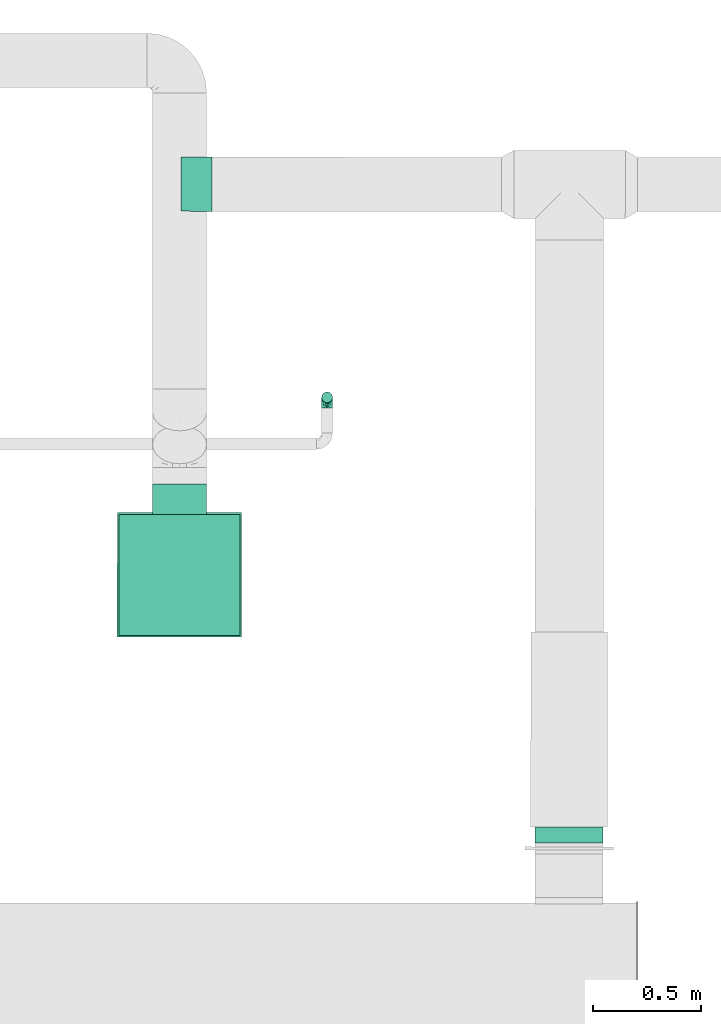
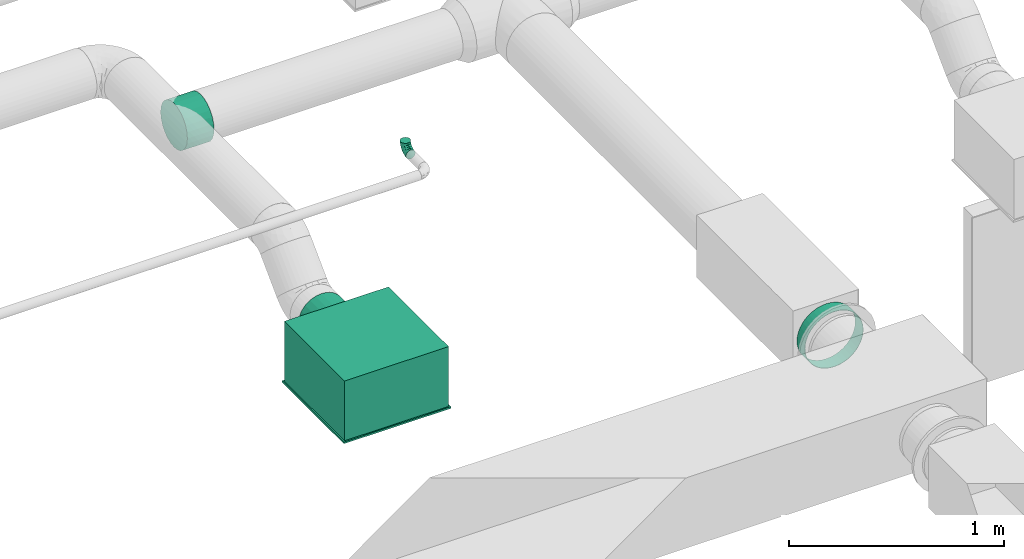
# One storey, part 42 of 63: 2 flow fittings, 1 flow segment, 1 flow terminal.
"""IFC2X3 building model written with IfcOpenShell, lengths in millimetres."""

import ifcopenshell
import ifcopenshell.guid

model = None  # the IFC model being written
_history = None  # IfcOwnerHistory: only IFC2X3 demands one
_inside = {}  # id of a spatial element -> (the spatial element, [elements in it])
_under = {}  # id of a project, library or spatial element -> (it, [spatial elements below it])
_declared = {}  # id of a project -> (the project, [libraries it declares])
_typed = {}  # id of a type object -> (the type object, [elements of that type])
_made_of = {}  # id of a material, layer set ... -> (it, [elements and type objects made of it])


def new_model(schema):
    """Start an empty IFC model of exactly this schema.

    Asked for "IFC4X3", IfcOpenShell would pick the latest addendum, in which some entities
    have other attributes; the version numbers below select the first issue.
    IFC2X3 requires an IfcOwnerHistory on every rooted entity: one is made here for all.
    """
    global model, _history
    if schema == "IFC4X3":
        model = ifcopenshell.file(schema_version=(4, 3, 0, 0))
    else:
        model = ifcopenshell.file(schema=schema)
    _inside.clear()
    _under.clear()
    _declared.clear()
    _typed.clear()
    _made_of.clear()
    _history = None
    if model.schema == "IFC2X3":
        org = make("IfcOrganization", Name="unknown")
        user = make(
            "IfcPersonAndOrganization",
            ThePerson=make("IfcPerson", FamilyName="unknown"),
            TheOrganization=org,
        )
        app = make(
            "IfcApplication",
            ApplicationDeveloper=org,
            Version="unknown",
            ApplicationFullName="unknown",
            ApplicationIdentifier="unknown",
        )
        _history = make(
            "IfcOwnerHistory",
            OwningUser=user,
            OwningApplication=app,
            ChangeAction="ADDED",
            CreationDate=0,
        )
    return model


def make(cls, **values):
    """One entity of the class cls with the attributes given. An attribute that is None is left unset."""
    return model.create_entity(
        cls, **{name: value for name, value in values.items() if value is not None}
    )


def entity(cls, *values):
    """Any entity or typed value of the class cls, its attributes in the order of the schema. None: left unset."""
    e = model.create_entity(cls)
    for i, value in enumerate(values):
        if value is not None:
            e[i] = value
    return e


def rooted(cls, **values):
    """An entity with a GlobalId (a new one), such as an element, a storey or a relation."""
    return make(cls, GlobalId=ifcopenshell.guid.new(), OwnerHistory=_history, **values)


def si_unit(unit_type, name, prefix=None):
    """IfcSIUnit, for example si_unit("LENGTHUNIT", "METRE", prefix="MILLI")."""
    return make("IfcSIUnit", UnitType=unit_type, Prefix=prefix, Name=name)


def converted_unit(unit_type, name, factor, base, dimensions=None, offset=None):
    """IfcConversionBasedUnit, such as the inch: factor (a typed value) times the base unit."""
    return make(
        "IfcConversionBasedUnit"
        if offset is None
        else "IfcConversionBasedUnitWithOffset",
        ConversionOffset=offset,
        Dimensions=None
        if dimensions is None
        else entity("IfcDimensionalExponents", *dimensions),
        UnitType=unit_type,
        Name=name,
        ConversionFactor=make(
            "IfcMeasureWithUnit", ValueComponent=factor, UnitComponent=base
        ),
    )


def derived_unit(unit_type, elements):
    """IfcDerivedUnit: a product of units, each with its exponent."""
    return make(
        "IfcDerivedUnit",
        Elements=[
            make("IfcDerivedUnitElement", Unit=unit, Exponent=power)
            for unit, power in elements
        ],
        UnitType=unit_type,
    )


def assignment(units):
    """IfcUnitAssignment: the units of a project."""
    return None if units is None else make("IfcUnitAssignment", Units=units)


def point(xyz):
    """IfcCartesianPoint."""
    return None if xyz is None else make("IfcCartesianPoint", Coordinates=xyz)


def direction(xyz):
    """IfcDirection."""
    return None if xyz is None else make("IfcDirection", DirectionRatios=xyz)


def frame(location, z_axis=None, x_axis=None):
    """IfcAxis2Placement3D, a coordinate frame: its origin and axes. An axis left out is left unset."""
    return make(
        "IfcAxis2Placement3D",
        Location=point(location),
        Axis=direction(z_axis),
        RefDirection=direction(x_axis),
    )


def frame_2d(location, x_axis=None):
    """IfcAxis2Placement2D, a coordinate frame in the plane: its origin and x axis."""
    return make(
        "IfcAxis2Placement2D", Location=point(location), RefDirection=direction(x_axis)
    )


def origin_with_axes():
    """The frame at (0, 0, 0) with the z axis (0, 0, 1) and the x axis (1, 0, 0) written out."""
    return frame((0.0, 0.0, 0.0), z_axis=(0.0, 0.0, 1.0), x_axis=(1.0, 0.0, 0.0))


def origin_2d_with_axis():
    """The frame at (0, 0) in the plane with the x axis (1, 0) written out."""
    return frame_2d((0.0, 0.0), x_axis=(1.0, 0.0))


def place(relative_to, where):
    """IfcLocalPlacement: puts the frame where relative to a parent placement (None: the world)."""
    return make(
        "IfcLocalPlacement", PlacementRelTo=relative_to, RelativePlacement=where
    )


def context(
    kind, dimensions, precision=None, world=None, true_north=None, identifier=None
):
    """IfcGeometricRepresentationContext, for example the 3D "Model" context."""
    return make(
        "IfcGeometricRepresentationContext",
        ContextIdentifier=identifier,
        ContextType=kind,
        CoordinateSpaceDimension=dimensions,
        Precision=precision,
        WorldCoordinateSystem=world,
        TrueNorth=true_north,
    )


def subcontext(parent, identifier, kind, view, scale=None):
    """IfcGeometricRepresentationSubContext, for example "Body" below "Model"."""
    return make(
        "IfcGeometricRepresentationSubContext",
        ContextIdentifier=identifier,
        ContextType=kind,
        ParentContext=parent,
        TargetScale=scale,
        TargetView=view,
    )


def project(units=None, contexts=None):
    """IfcProject with its units and contexts."""
    return rooted(
        "IfcProject",
        Name="project",
        RepresentationContexts=contexts,
        UnitsInContext=assignment(units),
    )


def spatial(cls, under=None, at=None, **own):
    """A site, building, storey or space (cls), placed at a placement, below another one or the project."""
    s = rooted(cls, ObjectPlacement=at, **own)
    if under is not None:
        _under.setdefault(under.id(), (under, []))[1].append(s)
    return s


def profile(cls, at=None, kind="AREA", **sizes):
    """A parametric profile (cls). Its sizes go by their IFC names, for example OverallWidth=200.0."""
    return make(cls, ProfileType=kind, Position=at, **sizes)


def hollow_circle(**sizes):
    """IfcCircleHollowProfileDef."""
    return profile("IfcCircleHollowProfileDef", **sizes)


def extrude(swept, where, along, depth):
    """IfcExtrudedAreaSolid: the profile swept, set in the frame where, extruded along a direction by depth."""
    return make(
        "IfcExtrudedAreaSolid",
        SweptArea=swept,
        Position=where,
        ExtrudedDirection=direction(along),
        Depth=depth,
    )


def faces_of(points, faces, orient=None, outer=None):
    """IfcFace entities. A face is a list of loops; a loop is a list of indices into points, from 0.

    orient and outer hold one flag for each loop. By default every Orientation is true, the
    first loop of a face is its IfcFaceOuterBound and the others are IfcFaceBound.
    """
    made = []
    for i, loops in enumerate(faces):
        bounds = []
        for j, loop in enumerate(loops):
            is_outer = j == 0 if outer is None else outer[i][j]
            bounds.append(
                make(
                    "IfcFaceOuterBound" if is_outer else "IfcFaceBound",
                    Bound=make("IfcPolyLoop", Polygon=[points[k] for k in loop]),
                    Orientation=True if orient is None else orient[i][j],
                )
            )
        made.append(make("IfcFace", Bounds=bounds))
    return made


def open_shell(faces, orient=None, outer=None):
    """The faces of one IfcOpenShell. surface_model builds it on its shared points."""
    return ("IfcOpenShell", faces, orient, outer)


def surface_model(cls, points, shells):
    """IfcFaceBasedSurfaceModel or IfcShellBasedSurfaceModel (cls): surfaces that need not close."""
    shared = [point(p) for p in points]
    made = [make(c, CfsFaces=faces_of(shared, fs, o, b)) for c, fs, o, b in shells]
    if cls == "IfcFaceBasedSurfaceModel":
        return make(cls, FbsmFaces=made)
    return make(cls, SbsmBoundary=made)


def shape(context_of_items, identifier, shape_type, items):
    """IfcShapeRepresentation: the items that make up one representation, for example the "Body"."""
    return make(
        "IfcShapeRepresentation",
        ContextOfItems=context_of_items,
        RepresentationIdentifier=identifier,
        RepresentationType=shape_type,
        Items=items,
    )


def source(mapping_origin, context_of_items, identifier, shape_type, items):
    """IfcRepresentationMap: a shape defined once, which mapped items show again and again."""
    return make(
        "IfcRepresentationMap",
        MappingOrigin=mapping_origin,
        MappedRepresentation=shape(context_of_items, identifier, shape_type, items),
    )


def transform(
    local_origin,
    x_axis=None,
    y_axis=None,
    z_axis=None,
    scale=None,
    scale2=None,
    scale3=None,
    uniform=True,
):
    """IfcCartesianTransformationOperator3D, or its non-uniform kind. x_axis, y_axis, z_axis: its Axis1, 2, 3."""
    if uniform:
        return make(
            "IfcCartesianTransformationOperator3D",
            Axis1=direction(x_axis),
            Axis2=direction(y_axis),
            LocalOrigin=point(local_origin),
            Scale=scale,
            Axis3=direction(z_axis),
        )
    return make(
        "IfcCartesianTransformationOperator3DnonUniform",
        Axis1=direction(x_axis),
        Axis2=direction(y_axis),
        LocalOrigin=point(local_origin),
        Scale=scale,
        Axis3=direction(z_axis),
        Scale2=scale2,
        Scale3=scale3,
    )


def mapped(mapping_source, mapping_target):
    """IfcMappedItem: shows the shape of a source again, moved by a transform."""
    return make(
        "IfcMappedItem", MappingSource=mapping_source, MappingTarget=mapping_target
    )


def made_of(thing, what):
    """Note that an element or type object is made of a material, layer set ...; save() writes the relation."""
    if what is not None:
        _made_of.setdefault(what.id(), (what, []))[1].append(thing)
    return thing


def type_object(cls, material=None, **own):
    """A type object (cls), such as IfcWallType, which elements share."""
    return made_of(rooted(cls, **own), material)


def element(
    cls,
    number,
    at=None,
    inside=None,
    cuts=None,
    type_object=None,
    material=None,
    context=None,
    identifier="Body",
    shape_type=None,
    held_by="IfcProductDefinitionShape",
    body=None,
    shapes=None,
    **own,
):
    """One element of the class cls, such as IfcWall. Its Tag is "e" and its number.

    at: its placement. inside: the storey or other place that contains it. cuts: it is an
    opening in that element (IfcRelVoidsElement). A single representation is given by context,
    identifier, shape_type and body (its items); several are given by shapes. held_by: the class
    of the entity that holds the representations. save() writes the other relations.
    """
    e = rooted(cls, Tag="e%d" % number, ObjectPlacement=at, **own)
    if body is not None:
        shapes = [shape(context, identifier, shape_type, body)]
    if shapes is not None:
        e.Representation = make(held_by, Representations=shapes)
    if inside is not None:
        _inside.setdefault(inside.id(), (inside, []))[1].append(e)
    if cuts is not None:
        rooted(
            "IfcRelVoidsElement", RelatingBuildingElement=cuts, RelatedOpeningElement=e
        )
    if type_object is not None:
        _typed.setdefault(type_object.id(), (type_object, []))[1].append(e)
    return made_of(e, material)


def aggregate(whole, parts):
    """IfcRelAggregates: a whole, such as a stair, and the parts it consists of."""
    return rooted("IfcRelAggregates", RelatingObject=whole, RelatedObjects=parts)


def save(model, path):
    """Write the relations noted so far, then the file.

    IfcRelAggregates (storeys below a building ...), IfcRelContainedInSpatialStructure (elements
    in a storey), IfcRelDefinesByType, IfcRelAssociatesMaterial and IfcRelDeclares: one each for
    every whole, place, type object, material and project.
    """
    for whole, parts in _under.values():
        aggregate(whole, parts)
    for where, things in _inside.values():
        rooted(
            "IfcRelContainedInSpatialStructure",
            RelatedElements=things,
            RelatingStructure=where,
        )
    for kind, things in _typed.values():
        rooted("IfcRelDefinesByType", RelatedObjects=things, RelatingType=kind)
    for what, things in _made_of.values():
        rooted("IfcRelAssociatesMaterial", RelatedObjects=things, RelatingMaterial=what)
    for by, libraries in _declared.values():
        rooted("IfcRelDeclares", RelatingContext=by, RelatedDefinitions=libraries)
    model.write(path)


model = new_model("IFC2X3")

# Units and contexts
model_context = context("Model", 3, precision=0.01, world=frame((0.0, 4.29681676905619e-09, 0.0)), true_north=direction((4.01073788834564e-13, 1.0)))
plan_context = context("Plan", 3, precision=0.01, world=frame((0.0, 4.29681676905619e-09, 0.0)), true_north=direction((4.01073788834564e-13, 1.0)))
body_context = subcontext(model_context, "Body", "Model", "MODEL_VIEW")
ifc_project = project(units=[converted_unit("PLANEANGLEUNIT", "DEGREE", entity("IfcPositiveLengthMeasure", 0.0174532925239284), si_unit("PLANEANGLEUNIT", "RADIAN"), dimensions=[0, 0, 0, 0, 0, 0, 0]), si_unit("AREAUNIT", "SQUARE_METRE"), si_unit("LENGTHUNIT", "METRE", prefix="MILLI"), si_unit("MASSUNIT", "GRAM", prefix="KILO"), si_unit("POWERUNIT", "WATT"), si_unit("PRESSUREUNIT", "PASCAL"), si_unit("FORCEUNIT", "NEWTON", prefix="KILO"), si_unit("ELECTRICVOLTAGEUNIT", "VOLT"), si_unit("ELECTRICCURRENTUNIT", "AMPERE"), si_unit("THERMODYNAMICTEMPERATUREUNIT", "DEGREE_CELSIUS"), si_unit("TIMEUNIT", "SECOND"), si_unit("VOLUMEUNIT", "CUBIC_METRE"), derived_unit("LINEARVELOCITYUNIT", [(si_unit("LENGTHUNIT", "METRE"), 1), (si_unit("TIMEUNIT", "SECOND"), -1)]), derived_unit("VOLUMETRICFLOWRATEUNIT", [(si_unit("VOLUMEUNIT", "CUBIC_METRE"), 1), (si_unit("TIMEUNIT", "SECOND"), -1)]), derived_unit("THERMALTRANSMITTANCEUNIT", [(si_unit("POWERUNIT", "WATT"), 1), (si_unit("THERMODYNAMICTEMPERATUREUNIT", "KELVIN"), -1), (si_unit("AREAUNIT", "SQUARE_METRE"), -1)]), derived_unit("SOUNDPRESSUREUNIT", [(si_unit("PRESSUREUNIT", "PASCAL"), 1)])], contexts=[model_context, plan_context])

# Site, building, storey
site_placement = place(None, frame((0.0, -4.29681676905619e-09, 0.0), z_axis=(0.0, 0.0, 1.0), x_axis=(1.0, 0.0, 0.0)))
site = spatial("IfcSite", under=ifc_project, at=site_placement, CompositionType="ELEMENT")
building_placement = place(site_placement, frame((0.0, 4.29681676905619e-09, 0.0), z_axis=(0.0, 0.0, 1.0), x_axis=(1.0, 0.0, 0.0)))
building = spatial("IfcBuilding", under=site, at=building_placement, Name="mc-building", CompositionType="ELEMENT")
storey_placement = place(building_placement, frame((0.0, 0.0, 210900.0), z_axis=(0.0, 0.0, 1.0), x_axis=(1.0, 0.0, 0.0)))
storey = spatial("IfcBuildingStorey", under=building, at=storey_placement, Name="Nivå F", CompositionType="ELEMENT", Elevation=210900.0)

# Flow fittings
duct_fitting_type_1 = type_object("IfcDuctFittingType", Name="magicirc_tapoutlet_001", PredefinedType="CONNECTOR")
shared_shape_1 = source(origin_with_axes(), body_context, "Body", "SurfaceModel", [
    surface_model("IfcShellBasedSurfaceModel", [(-118.904, 88.38835, -88.38835), (-118.904, 120.74073, 32.35238), (-118.904, 108.25318, -62.5), (-118.904, -88.38835, -88.38835), (-118.904, -125.0, 0.0), (-118.904, -62.5, -108.25318), (-118.904, -120.74073, -32.35238), (-118.904, -108.25318, -62.5), (0.0, 125.0, 0.0), (0.0, 120.74073, -32.35238), (-118.904, 125.0, 0.0), (0.0, -120.74073, -32.35238), (0.0, -125.0, 0.0), (-118.904, -32.35238, -120.74073), (-118.904, 0.0, -125.0), (-118.904, 62.5, -108.25318), (-118.904, 32.35238, -120.74073), (-118.904, 120.74073, -32.35238), (-118.904, -120.74073, 32.35238), (-118.904, -108.25318, 62.5), (-118.904, -62.5, 108.25318), (-118.904, -32.35238, 120.74073), (-118.904, -88.38835, 88.38835), (-118.904, 62.5, 108.25318), (-118.904, 108.25318, 62.5), (-118.904, 88.38835, 88.38835), (-118.904, 32.35238, 120.74073), (-118.904, 0.0, 125.0), (0.0, -32.35238, 120.74073), (0.0, 0.0, 125.0), (0.0, -62.5, 108.25318), (0.0, -88.38835, 88.38835), (0.0, -120.74073, 32.35238), (0.0, -108.25318, 62.5), (0.0, -108.25318, -62.5), (0.0, -88.38835, -88.38835), (0.0, -32.35238, -120.74073), (0.0, -62.5, -108.25318), (0.0, 0.0, -125.0), (0.0, 32.35238, -120.74073), (0.0, 62.5, -108.25318), (0.0, 88.38835, -88.38835), (0.0, 108.25318, -62.5), (0.0, 120.74073, 32.35238), (0.0, 108.25318, 62.5), (0.0, 88.38835, 88.38835), (0.0, 32.35238, 120.74073), (0.0, 62.5, 108.25318), (25.0, -88.38835, -88.38835), (25.0, -120.74073, 32.35238), (25.0, -108.25318, -62.5), (25.0, 32.35238, -120.74073), (25.0, 0.0, -125.0), (25.0, 62.5, -108.25318), (25.0, -32.35238, -120.74073), (25.0, -62.5, -108.25318), (25.0, -125.0, 0.0), (25.0, -120.74073, -32.35238), (25.0, 88.38835, -88.38835), (25.0, 108.25318, -62.5), (25.0, 125.0, 0.0), (25.0, 120.74073, 32.35238), (25.0, 120.74073, -32.35238), (25.0, -108.25318, 62.5), (25.0, -62.5, 108.25318), (25.0, -32.35238, 120.74073), (25.0, -88.38835, 88.38835), (25.0, 0.0, 125.0), (25.0, 108.25318, 62.5), (25.0, 88.38835, 88.38835), (25.0, 32.35238, 120.74073), (25.0, 62.5, 108.25318)], [open_shell([[[0, 1, 2]], [[3, 4, 5]], [[6, 4, 7]], [[3, 7, 4]], [[8, 9, 10]], [[4, 11, 12]], [[13, 4, 14]], [[5, 4, 13]], [[0, 14, 1]], [[14, 15, 16]], [[14, 0, 15]], [[2, 1, 17]], [[2, 0, 1]], [[1, 10, 17]], [[4, 7, 6]], [[18, 19, 14]], [[14, 19, 20]], [[21, 14, 20]], [[20, 19, 22]], [[14, 21, 23]], [[14, 24, 1]], [[25, 24, 14]], [[25, 14, 23]], [[21, 26, 23]], [[21, 27, 26]], [[4, 18, 14]], [[28, 29, 21]], [[30, 28, 20]], [[21, 29, 27]], [[20, 28, 21]], [[20, 22, 30]], [[22, 31, 30]], [[32, 33, 18]], [[12, 32, 4]], [[22, 19, 31]], [[19, 33, 31]], [[18, 33, 19]], [[18, 4, 32]], [[7, 34, 11]], [[6, 11, 4]], [[34, 7, 3]], [[6, 7, 11]], [[3, 35, 34]], [[36, 37, 13]], [[38, 36, 14]], [[3, 5, 35]], [[5, 37, 35]], [[13, 37, 5]], [[13, 14, 36]], [[39, 38, 16]], [[40, 39, 15]], [[16, 38, 14]], [[15, 39, 16]], [[15, 0, 40]], [[0, 41, 40]], [[9, 42, 17]], [[0, 2, 41]], [[2, 42, 41]], [[17, 42, 2]], [[17, 10, 9]], [[43, 8, 1]], [[44, 43, 24]], [[1, 8, 10]], [[24, 43, 1]], [[24, 25, 44]], [[25, 45, 44]], [[46, 47, 26]], [[29, 46, 27]], [[25, 23, 45]], [[23, 47, 45]], [[26, 47, 23]], [[26, 27, 46]], [[7, 4, 3]], [[15, 16, 14]], [[19, 14, 18]], [[19, 22, 14]], [[14, 22, 20]], [[14, 23, 25]], [[27, 26, 21]], [[14, 4, 18]], [[48, 49, 50]], [[51, 52, 38]], [[53, 51, 39]], [[53, 39, 40]], [[38, 52, 54]], [[36, 54, 55]], [[37, 36, 55]], [[56, 57, 49]], [[58, 59, 60]], [[58, 60, 53]], [[52, 51, 54]], [[54, 49, 55]], [[55, 49, 48]], [[54, 60, 61]], [[54, 51, 53]], [[62, 60, 59]], [[53, 60, 54]], [[57, 50, 49]], [[63, 49, 54]], [[64, 63, 54]], [[64, 54, 65]], [[66, 63, 64]], [[67, 65, 54]], [[61, 68, 54]], [[68, 69, 54]], [[70, 67, 71]], [[69, 71, 67]], [[54, 69, 67]], [[65, 67, 29]], [[64, 65, 28]], [[28, 65, 29]], [[31, 66, 30]], [[64, 28, 30]], [[64, 30, 66]], [[49, 63, 33]], [[56, 49, 32]], [[33, 63, 31]], [[49, 33, 32]], [[56, 32, 12]], [[66, 31, 63]], [[57, 56, 12]], [[50, 57, 11]], [[11, 57, 12]], [[35, 48, 34]], [[50, 11, 34]], [[50, 34, 48]], [[37, 55, 35]], [[54, 36, 38]], [[48, 35, 55]], [[39, 51, 38]], [[41, 58, 40]], [[53, 40, 58]], [[62, 59, 42]], [[60, 62, 9]], [[42, 59, 41]], [[62, 42, 9]], [[60, 9, 8]], [[58, 41, 59]], [[61, 60, 8]], [[68, 61, 43]], [[43, 61, 8]], [[45, 69, 44]], [[68, 43, 44]], [[68, 44, 69]], [[70, 71, 47]], [[67, 70, 46]], [[47, 71, 45]], [[70, 47, 46]], [[67, 46, 29]], [[69, 45, 71]], [[66, 63, 54]], [[54, 65, 64]], [[64, 66, 54]], [[54, 69, 71]], [[67, 54, 71]]])]),
])
flow_fitting_1_placement = place(storey_placement, frame((530629.10832, 459790.14001, 4200.0), z_axis=(0.0, 0.0, -1.0), x_axis=(0.999999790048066, -0.000647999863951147, 0.0)))
element("IfcFlowFitting", 1, at=flow_fitting_1_placement, inside=storey, type_object=duct_fitting_type_1, Name="magicirc_tapoutlet_001", context=body_context, shape_type="MappedRepresentation", body=[
    mapped(shared_shape_1, transform((0.0, 0.0, 0.0), scale=1.0)),
])
duct_fitting_type_2 = type_object("IfcDuctFittingType", Name="magicirc_elbow_full_radius_001", PredefinedType="BEND")
shared_shape_2 = source(origin_with_axes(), body_context, "Body", "SurfaceModel", [
    surface_model("IfcShellBasedSurfaceModel", [(-50.0, -6.47048, 24.14815), (-50.0, 0.0, 25.0), (-50.0, 6.47048, 24.14815), (-50.0, 25.0, 0.0), (-50.0, 24.14815, -6.47048), (-50.0, 24.14815, 6.47048), (-50.0, 6.47048, -24.14815), (-50.0, 0.0, -25.0), (-50.0, 12.5, -21.65064), (-50.0, 21.65064, -12.5), (-50.0, 17.67767, -17.67767), (-50.0, -17.67767, -17.67767), (-50.0, -12.5, -21.65064), (-50.0, -6.47048, -24.14815), (-50.0, -21.65064, -12.5), (-50.0, -24.14815, -6.47048), (-50.0, -24.14815, 6.47048), (-50.0, -25.0, 0.0), (-50.0, 21.65064, 12.5), (-50.0, 12.5, 21.65064), (-50.0, 17.67767, 17.67767), (-50.0, -12.5, 21.65064), (-50.0, -21.65064, 12.5), (-50.0, -17.67767, 17.67767), (-24.14815, 50.0, -6.47048), (0.0, 50.0, -25.0), (-6.47048, 50.0, -24.14815), (-12.5, 50.0, -21.65064), (-21.65064, 50.0, -12.5), (-17.67767, 50.0, -17.67767), (17.67767, 50.0, -17.67767), (6.47048, 50.0, -24.14815), (12.5, 50.0, -21.65064), (24.14815, 50.0, -6.47048), (21.65064, 50.0, -12.5), (25.0, 50.0, 0.0), (-24.14815, 50.0, 6.47048), (24.14815, 50.0, 6.47048), (-6.47048, 50.0, 24.14815), (-21.65064, 50.0, 12.5), (-17.67767, 50.0, 17.67767), (-12.5, 50.0, 21.65064), (12.5, 50.0, 21.65064), (17.67767, 50.0, 17.67767), (21.65064, 50.0, 12.5), (6.47048, 50.0, 24.14815), (0.0, 50.0, 25.0), (-25.0, 50.0, 0.0), (-36.67735, -19.42227, 14.03433), (-32.82968, -14.42335, 18.62892), (-35.64937, -22.14548, 0.0), (-22.09962, -15.92094, 12.6179), (-33.22625, -21.82028, 7.797), (21.82028, 33.22625, 7.797), (17.64067, 19.58414, 6.40882), (19.29096, 21.29874, 0.0), (-24.43766, 39.90136, 10.86587), (-20.88421, 38.92216, 16.42417), (-36.74567, -9.45359, 22.49231), (-38.192, -3.31182, 24.57244), (-35.00811, 3.83216, 24.95739), (-9.13287, -11.16199, 0.0), (-19.58414, -17.64067, 6.40882), (-21.29874, -19.29096, 0.0), (-19.31524, -6.06759, 20.7695), (-24.88984, -0.22435, 24.23133), (-2.15147, -4.22615, 11.26442), (-0.41902, 0.51586, 14.93357), (-8.49829, -5.98681, 15.40266), (-39.08085, 20.84056, 16.4067), (-8.68866, 24.58498, 24.95514), (-18.51786, 18.51786, 24.39255), (-14.88627, 10.92479, 24.87122), (-43.25329, 15.13957, 20.3706), (-9.33205, 43.12334, 23.41697), (-3.42635, 37.39647, 24.9386), (-39.91378, 24.43361, 10.86421), (-39.52416, 26.62869, 5.49664), (-31.04081, 31.04081, 9.34521), (-38.53768, 9.80489, 23.61608), (-6.5257, 16.74435, 24.54744), (-12.42199, 4.5863, 23.34496), (-2.55398, 13.50681, 22.9747), (-4.46571, 4.46571, 20.43962), (14.42335, 32.82968, 18.62892), (15.92094, 22.09962, 12.6179), (19.42227, 36.67735, 14.03433), (-26.57791, 16.96315, 23.12353), (-27.47187, 10.70867, 24.55261), (3.31182, 38.192, 24.57244), (9.45359, 36.74567, 22.49231), (6.06759, 19.31524, 20.7695), (22.14548, 35.64937, 0.0), (-24.53158, 6.12607, 24.98933), (-23.14362, 26.40038, 20.54252), (-34.42614, 16.97043, 21.05258), (-26.31567, 40.33071, 5.36329), (-31.33209, 32.79034, 4.39983), (11.41104, 20.24921, 17.09898), (-28.34936, 37.5, 0.0), (-10.81204, 33.87561, 23.80901), (-14.26605, 25.87925, 24.03265), (-18.12489, 32.31264, 21.01179), (-19.91717, 24.20374, 22.74716), (-15.27322, 41.92094, 20.47431), (-20.24921, -11.41104, 17.09898), (-25.92754, 33.13968, 14.14974), (-26.35258, 27.91972, 17.70863), (-32.10875, 26.86285, 13.94058), (0.22435, 24.88984, 24.23133), (5.69292, 8.68334, 15.83541), (-11.86567, -11.15996, 11.73483), (1.48439, -3.24717, 6.76648), (7.59176, 4.45273, 8.73079), (7.75387, 2.59512, 3.74652), (12.87658, 10.42821, 5.90505), (12.55206, 12.96891, 10.49254), (-37.5, 28.34936, 0.0), (-6.73798, -9.94178, 7.2586), (3.03301, -3.03301, 0.0), (11.16199, 9.13287, 0.0), (-20.24921, -11.41104, -17.09898), (-32.82968, -14.42335, -18.62892), (-19.31524, -6.06759, -20.7695), (-22.09962, -15.92095, -12.6179), (-38.92216, 20.88421, -16.42417), (-41.92094, 15.27322, -20.47431), (-40.33071, 26.31567, -5.36329), (-33.22625, -21.82028, -7.797), (-31.04081, 31.0408, -9.34521), (-39.90136, 24.43766, -10.86587), (-19.58414, -17.64067, -6.40882), (-24.20374, 19.91717, -22.74716), (-25.87925, 14.26604, -24.03266), (-32.31264, 18.12489, -21.01179), (-15.13957, 43.25329, -20.3706), (-20.84057, 39.08085, -16.4067), (9.45359, 36.74567, -22.49231), (6.06759, 19.31524, -20.7695), (0.22435, 24.88984, -24.23133), (-43.12334, 9.33205, -23.41697), (-36.67735, -19.42227, -14.03433), (-36.74567, -9.45359, -22.49231), (-16.96315, 26.5779, -23.12354), (-9.80489, 38.53768, -23.61608), (-10.70867, 27.47187, -24.55261), (-38.192, -3.31182, -24.57244), (-24.58498, 8.68866, -24.95514), (-18.51786, 18.51786, -24.39255), (-10.92479, 14.88627, -24.87122), (-37.39647, 3.42635, -24.9386), (-26.62869, 39.52416, -5.49664), (-24.43361, 39.91378, -10.86421), (-33.87561, 10.81204, -23.80901), (-32.79034, 31.33209, -4.39983), (-6.12607, 24.53158, -24.98933), (-26.40038, 23.14362, -20.54252), (-16.97043, 34.42613, -21.05258), (3.31182, 38.192, -24.57244), (-3.83216, 35.00811, -24.95739), (19.42227, 36.67735, -14.03433), (14.42335, 32.82968, -18.62892), (7.75387, 2.59513, -3.74652), (12.87658, 10.42822, -5.90505), (-16.74435, 6.5257, -24.54744), (-4.5863, 12.42199, -23.34496), (-13.50681, 2.55398, -22.9747), (1.48439, -3.24717, -6.76647), (-6.73799, -9.94178, -7.2586), (-2.15147, -4.22615, -11.26442), (15.92094, 22.09962, -12.6179), (21.82028, 33.22625, -7.797), (17.64067, 19.58414, -6.40882), (-33.13968, 25.92753, -14.14974), (11.41104, 20.24921, -17.09898), (12.55206, 12.96891, -10.49254), (5.69292, 8.68334, -15.83541), (-27.91972, 26.35258, -17.70863), (-26.86285, 32.10875, -13.94058), (-24.88984, -0.22435, -24.23133), (-4.46571, 4.46571, -20.43962), (-8.49829, -5.98681, -15.40266), (-11.86568, -11.15996, -11.73483), (-0.41902, 0.51586, -14.93357), (7.59175, 4.45273, -8.73079)], [open_shell([[[0, 1, 2]], [[3, 4, 5]], [[6, 7, 4]], [[8, 6, 4]], [[8, 4, 9]], [[10, 8, 9]], [[11, 4, 7]], [[12, 11, 13]], [[11, 7, 13]], [[14, 15, 11]], [[15, 16, 11]], [[17, 16, 15]], [[4, 11, 5]], [[5, 11, 16]], [[18, 5, 2]], [[2, 19, 20]], [[18, 2, 20]], [[2, 5, 21]], [[22, 23, 16]], [[21, 16, 23]], [[16, 21, 5]], [[21, 0, 2]], [[24, 25, 26]], [[24, 26, 27]], [[28, 24, 27]], [[28, 27, 29]], [[25, 24, 30]], [[31, 30, 32]], [[31, 25, 30]], [[30, 33, 34]], [[24, 33, 30]], [[24, 35, 33]], [[24, 36, 35]], [[37, 35, 36]], [[38, 36, 39]], [[40, 41, 38]], [[40, 38, 39]], [[42, 36, 38]], [[37, 43, 44]], [[43, 37, 42]], [[36, 42, 37]], [[38, 45, 42]], [[38, 46, 45]], [[36, 24, 47]], [[23, 48, 49]], [[16, 17, 50]], [[51, 48, 52]], [[53, 54, 55]], [[48, 23, 22]], [[16, 52, 22]], [[39, 56, 57]], [[49, 21, 23]], [[49, 58, 21]], [[1, 59, 60]], [[61, 62, 63]], [[58, 64, 65]], [[66, 67, 68]], [[18, 20, 69]], [[70, 71, 72]], [[19, 73, 20]], [[0, 59, 1]], [[38, 74, 75]], [[1, 60, 2]], [[18, 69, 76]], [[20, 73, 69]], [[3, 5, 77]], [[5, 18, 76]], [[77, 76, 78]], [[2, 79, 19]], [[80, 81, 82]], [[68, 83, 64]], [[84, 43, 42]], [[85, 86, 84]], [[87, 79, 88]], [[21, 58, 0]], [[46, 89, 45]], [[53, 37, 44]], [[46, 38, 75]], [[84, 90, 91]], [[44, 86, 53]], [[92, 37, 53]], [[86, 44, 43]], [[90, 42, 45]], [[53, 55, 92]], [[88, 93, 72]], [[54, 53, 85]], [[87, 94, 95]], [[78, 96, 97]], [[98, 84, 91]], [[99, 96, 47]], [[79, 2, 60]], [[96, 78, 56]], [[62, 52, 63]], [[57, 40, 39]], [[100, 70, 75]], [[101, 102, 103]], [[16, 50, 52]], [[104, 41, 40]], [[74, 38, 41]], [[57, 102, 104]], [[105, 64, 49]], [[90, 84, 42]], [[39, 36, 56]], [[56, 106, 57]], [[102, 57, 107]], [[95, 107, 69]], [[76, 108, 78]], [[100, 101, 70]], [[89, 75, 109]], [[64, 58, 49]], [[63, 52, 50]], [[59, 58, 65]], [[105, 49, 51]], [[64, 83, 81]], [[89, 90, 45]], [[35, 37, 92]], [[109, 82, 91]], [[109, 91, 90]], [[91, 83, 110]], [[111, 68, 105]], [[66, 68, 111]], [[62, 51, 52]], [[66, 112, 113]], [[114, 115, 113]], [[98, 85, 84]], [[52, 48, 22]], [[49, 48, 51]], [[84, 86, 43]], [[53, 86, 85]], [[88, 79, 60]], [[73, 79, 95]], [[96, 56, 36]], [[78, 108, 106]], [[87, 103, 94]], [[100, 74, 104]], [[108, 69, 107]], [[78, 97, 77]], [[88, 72, 71]], [[109, 75, 70]], [[81, 72, 65]], [[70, 72, 80]], [[75, 89, 46]], [[90, 89, 109]], [[58, 59, 0]], [[60, 59, 65]], [[67, 83, 68]], [[110, 113, 116]], [[88, 60, 93]], [[87, 88, 71]], [[103, 87, 71]], [[79, 87, 95]], [[101, 103, 71]], [[94, 103, 102]], [[47, 96, 36]], [[96, 99, 97]], [[99, 117, 97]], [[97, 117, 77]], [[3, 77, 117]], [[5, 76, 77]], [[60, 65, 93]], [[65, 72, 93]], [[70, 101, 71]], [[102, 101, 100]], [[69, 108, 76]], [[106, 108, 107]], [[57, 106, 107]], [[78, 106, 56]], [[57, 104, 40]], [[100, 104, 102]], [[102, 107, 94]], [[95, 94, 107]], [[64, 81, 65]], [[82, 81, 83]], [[91, 82, 83]], [[80, 82, 109]], [[70, 80, 109]], [[81, 80, 72]], [[79, 73, 19]], [[69, 73, 95]], [[104, 74, 41]], [[75, 74, 100]], [[62, 61, 118]], [[111, 62, 118]], [[113, 115, 116]], [[119, 118, 61]], [[111, 105, 51]], [[113, 112, 114]], [[120, 55, 54]], [[68, 64, 105]], [[91, 110, 98]], [[116, 98, 110]], [[62, 111, 51]], [[66, 111, 118]], [[112, 66, 118]], [[67, 113, 110]], [[118, 119, 112]], [[114, 112, 119]], [[119, 120, 114]], [[115, 120, 54]], [[120, 115, 114]], [[116, 54, 85]], [[54, 116, 115]], [[116, 85, 98]], [[113, 67, 66]], [[83, 67, 110]], [[121, 122, 123]], [[122, 121, 124]], [[9, 125, 10]], [[10, 126, 8]], [[117, 127, 3]], [[50, 15, 128]], [[127, 129, 130]], [[128, 131, 63]], [[132, 133, 134]], [[29, 135, 136]], [[137, 138, 139]], [[8, 140, 6]], [[128, 14, 141]], [[142, 12, 13]], [[128, 63, 50]], [[9, 4, 130]], [[14, 11, 141]], [[143, 144, 145]], [[146, 13, 7]], [[147, 148, 149]], [[14, 128, 15]], [[124, 141, 122]], [[150, 7, 6]], [[151, 152, 129]], [[125, 134, 126]], [[153, 147, 150]], [[127, 154, 129]], [[145, 155, 149]], [[47, 24, 151]], [[143, 156, 157]], [[152, 24, 28]], [[25, 158, 159]], [[122, 11, 12]], [[29, 27, 135]], [[144, 27, 26]], [[30, 160, 161]], [[25, 31, 158]], [[120, 162, 163]], [[130, 125, 9]], [[29, 136, 28]], [[6, 140, 150]], [[32, 161, 137]], [[142, 122, 12]], [[25, 159, 26]], [[164, 165, 166]], [[167, 168, 169]], [[34, 160, 30]], [[161, 32, 30]], [[170, 160, 171]], [[131, 128, 124]], [[35, 92, 33]], [[33, 92, 171]], [[172, 171, 55]], [[33, 171, 34]], [[144, 26, 159]], [[130, 173, 125]], [[174, 175, 176]], [[136, 152, 28]], [[32, 137, 31]], [[122, 142, 123]], [[134, 125, 177]], [[157, 177, 136]], [[152, 178, 129]], [[153, 133, 147]], [[146, 150, 179]], [[146, 142, 13]], [[17, 15, 50]], [[179, 166, 123]], [[179, 123, 142]], [[123, 180, 181]], [[138, 137, 161]], [[55, 171, 92]], [[158, 137, 139]], [[174, 161, 170]], [[138, 180, 165]], [[180, 138, 176]], [[124, 121, 182]], [[176, 183, 180]], [[61, 131, 168]], [[169, 168, 182]], [[172, 170, 171]], [[122, 141, 11]], [[128, 141, 124]], [[171, 160, 34]], [[161, 160, 170]], [[145, 144, 159]], [[135, 144, 157]], [[127, 130, 4]], [[129, 178, 173]], [[143, 132, 156]], [[153, 140, 126]], [[178, 136, 177]], [[129, 154, 151]], [[145, 149, 148]], [[179, 150, 147]], [[165, 149, 139]], [[147, 149, 164]], [[150, 146, 7]], [[142, 146, 179]], [[137, 158, 31]], [[159, 158, 139]], [[174, 138, 161]], [[184, 169, 183]], [[145, 159, 155]], [[143, 145, 148]], [[132, 143, 148]], [[144, 143, 157]], [[133, 132, 148]], [[156, 132, 134]], [[3, 127, 4]], [[127, 117, 154]], [[117, 99, 154]], [[154, 99, 151]], [[47, 151, 99]], [[24, 152, 151]], [[159, 139, 155]], [[139, 149, 155]], [[147, 133, 148]], [[134, 133, 153]], [[136, 178, 152]], [[173, 178, 177]], [[125, 173, 177]], [[129, 173, 130]], [[125, 126, 10]], [[153, 126, 134]], [[134, 177, 156]], [[157, 156, 177]], [[138, 165, 139]], [[166, 165, 180]], [[123, 166, 180]], [[164, 166, 179]], [[147, 164, 179]], [[165, 164, 149]], [[144, 135, 27]], [[136, 135, 157]], [[126, 140, 8]], [[150, 140, 153]], [[182, 131, 124]], [[168, 119, 61]], [[119, 167, 162]], [[63, 131, 61]], [[172, 163, 175]], [[172, 55, 120]], [[123, 181, 121]], [[182, 121, 181]], [[175, 174, 170]], [[176, 138, 174]], [[169, 182, 181]], [[131, 182, 168]], [[183, 169, 181]], [[167, 169, 184]], [[162, 167, 184]], [[119, 168, 167]], [[163, 162, 184]], [[120, 119, 162]], [[175, 163, 184]], [[120, 163, 172]], [[176, 175, 184]], [[172, 175, 170]], [[180, 183, 181]], [[184, 183, 176]]])]),
])
flow_fitting_2_placement = place(storey_placement, frame((531185.74559, 458805.0, 4425.0), z_axis=(1.0, 0.0, 0.0), x_axis=(0.0, 1.0, 0.0)))
element("IfcFlowFitting", 2, at=flow_fitting_2_placement, inside=storey, type_object=duct_fitting_type_2, Name="magicirc_elbow_full_radius_001", context=body_context, shape_type="MappedRepresentation", body=[
    mapped(shared_shape_2, transform((0.0, 0.0, 0.0), scale=1.0)),
])

# Flow segment
duct_segment_type = type_object("IfcDuctSegmentType", Name="KK002T - Spiro kanaler, Forsinket stål, korte bend", PredefinedType="RIGIDSEGMENT")
shared_shape_3 = source(origin_with_axes(), body_context, "Body", "SweptSolid", [
    extrude(hollow_circle(Radius=157.5, WallThickness=2.0, at=origin_2d_with_axis()), frame((0.0, 0.0, 0.0), z_axis=(1.0, 0.0, 0.0), x_axis=(0.0, 1.0, 0.0)), (0.0, 0.0, 1.0), 73.9),
])
flow_segment_placement = place(storey_placement, frame((532304.22589, 456820.55511, 4200.0), z_axis=(0.0, 0.0, 1.0), x_axis=(-0.000647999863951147, -0.999999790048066, 0.0)))
element("IfcFlowSegment", 3, at=flow_segment_placement, inside=storey, type_object=duct_segment_type, Name="KK002T - Spiro kanaler, Forsinket stål, korte bend", context=body_context, shape_type="MappedRepresentation", body=[
    mapped(shared_shape_3, transform((0.0, 0.0, 0.0), scale=1.0)),
])

# Flow terminal
air_terminal_type = type_object("IfcAirTerminalType", Name="NS19-H-S-2-250 - 4-way", PredefinedType="NOTDEFINED")
shared_shape_4 = source(origin_with_axes(), body_context, "Body", "SurfaceModel", [
    surface_model("IfcShellBasedSurfaceModel", [(-287.5, 287.5, 0.0), (-287.5, -287.5, 0.0), (287.5, -287.5, 0.0), (287.5, 287.5, 0.0), (287.5, 287.5, -10.0), (287.5, -287.5, -10.0), (-287.5, -287.5, -10.0), (-287.5, 287.5, -10.0), (-280.0, 280.0, 340.0), (-280.0, -280.0, 340.0), (280.0, -280.0, 340.0), (280.0, 280.0, 340.0), (280.0, 280.0, 0.0), (280.0, -280.0, 0.0), (-280.0, -280.0, 0.0), (-280.0, 280.0, 0.0), (-280.0, 62.5, 81.74683), (-280.0, 88.38835, 101.61165), (-280.0, 62.4, 81.92003), (-280.0, 32.30062, 69.45246), (-280.0, 0.0, 65.2), (-280.0, 32.35238, 69.25927), (-280.0, 0.0, 65.0), (-280.0, 88.24693, 101.75307), (-280.0, 120.74073, 157.64763), (-280.0, 124.8, 189.99999), (-280.0, 120.54755, 157.69939), (-280.0, 125.0, 189.99999), (-280.0, 108.25318, 127.5), (-280.0, 108.07997, 127.6), (-280.0, -32.30062, 69.45246), (-280.0, -32.35238, 69.25927), (-280.0, -62.4, 81.92003), (-280.0, -88.38835, 101.61165), (-280.0, -62.5, 81.74683), (-280.0, -88.24693, 101.75307), (-280.0, -108.07997, 127.6), (-280.0, -108.25318, 127.5), (-280.0, -120.54755, 157.69939), (-280.0, -120.74073, 157.64763), (-280.0, -124.8, 189.99999), (-280.0, -125.0, 189.99999), (-280.0, 120.74073, 222.35238), (-280.0, 120.54755, 222.30062), (-280.0, 108.07997, 252.4), (-280.0, 108.25318, 252.49999), (-280.0, 88.24693, 278.24693), (-280.0, 88.38835, 278.38835), (-280.0, 62.5, 298.25318), (-280.0, 62.4, 298.07997), (-280.0, 32.30062, 310.54754), (-280.0, 32.35238, 310.74073), (-280.0, 0.0, 314.80001), (-280.0, 0.0, 315.0), (-280.0, -108.25318, 252.49999), (-280.0, -108.07997, 252.4), (-280.0, -88.38835, 278.38835), (-280.0, -88.24693, 278.24693), (-280.0, -120.74073, 222.35238), (-280.0, -120.54755, 222.30062), (-280.0, -32.30062, 310.54754), (-280.0, -32.35238, 310.74073), (-280.0, -62.4, 298.07997), (-280.0, -62.5, 298.25318), (-420.00002, 62.5, 298.25318), (-420.00002, 88.38835, 278.38835), (-420.00002, 62.4, 298.07997), (-420.00002, 32.30062, 310.54754), (-420.00002, 0.0, 314.80001), (-420.00002, 32.35238, 310.74073), (-420.00002, 0.0, 315.0), (-420.00002, 88.24693, 278.24693), (-420.00002, 120.74073, 222.35238), (-420.00002, 124.8, 189.99999), (-420.00002, 120.54755, 222.30062), (-420.00002, 125.0, 189.99999), (-420.00002, 108.25318, 252.49999), (-420.00002, 108.07997, 252.4), (-420.00002, -32.30062, 310.54754), (-420.00002, -32.35238, 310.74073), (-420.00002, -62.4, 298.07997), (-420.00002, -88.38835, 278.38835), (-420.00002, -62.5, 298.25318), (-420.00002, -88.24693, 278.24693), (-420.00002, -108.07997, 252.4), (-420.00002, -108.25318, 252.49999), (-420.00002, -120.54755, 222.30062), (-420.00002, -120.74073, 222.35238), (-420.00002, -124.8, 189.99999), (-420.00002, -125.0, 189.99999), (-420.00002, 120.74073, 157.64763), (-420.00002, 120.54755, 157.69939), (-420.00002, 108.07997, 127.6), (-420.00002, 108.25318, 127.5), (-420.00002, 88.24693, 101.75307), (-420.00002, 88.38835, 101.61165), (-420.00002, 62.5, 81.74683), (-420.00002, 62.4, 81.92003), (-420.00002, 32.30062, 69.45246), (-420.00002, 32.35238, 69.25927), (-420.00002, 0.0, 65.2), (-420.00002, 0.0, 65.0), (-420.00002, -108.25318, 127.5), (-420.00002, -108.07997, 127.6), (-420.00002, -88.38835, 101.61165), (-420.00002, -88.24693, 101.75307), (-420.00002, -120.74073, 157.64763), (-420.00002, -120.54755, 157.69939), (-420.00002, -32.30062, 69.45246), (-420.00002, -32.35238, 69.25927), (-420.00002, -62.4, 81.92003), (-420.00002, -62.5, 81.74683)], [open_shell([[[0, 1, 2]], [[2, 3, 0]], [[4, 5, 6]], [[6, 7, 4]], [[2, 1, 6]], [[6, 5, 2]], [[3, 2, 5]], [[5, 4, 3]], [[0, 3, 4]], [[4, 7, 0]], [[1, 0, 7]], [[7, 6, 1]], [[8, 9, 10]], [[10, 11, 8]], [[12, 13, 14]], [[14, 15, 12]], [[10, 9, 14]], [[14, 13, 10]], [[11, 10, 13]], [[13, 12, 11]], [[8, 11, 12]], [[12, 15, 8]], [[9, 8, 15]], [[15, 14, 9]], [[16, 17, 18]], [[16, 18, 19]], [[20, 21, 19]], [[21, 20, 22]], [[19, 21, 16]], [[18, 17, 23]], [[24, 25, 26]], [[25, 24, 27]], [[24, 26, 28]], [[23, 28, 29]], [[28, 23, 17]], [[29, 28, 26]], [[22, 30, 31]], [[31, 30, 32]], [[33, 34, 35]], [[32, 34, 31]], [[32, 35, 34]], [[22, 20, 30]], [[36, 37, 33]], [[37, 36, 38]], [[36, 33, 35]], [[39, 38, 40]], [[38, 39, 37]], [[39, 40, 41]], [[27, 42, 43]], [[43, 42, 44]], [[44, 45, 46]], [[45, 44, 42]], [[46, 45, 47]], [[47, 48, 49]], [[49, 48, 50]], [[50, 51, 52]], [[51, 50, 48]], [[52, 51, 53]], [[49, 46, 47]], [[54, 55, 56]], [[56, 55, 57]], [[55, 54, 58]], [[41, 59, 58]], [[58, 59, 55]], [[41, 40, 59]], [[60, 53, 61]], [[60, 61, 62]], [[57, 63, 56]], [[57, 62, 63]], [[63, 62, 61]], [[52, 53, 60]], [[43, 25, 27]], [[64, 65, 66]], [[64, 66, 67]], [[68, 69, 67]], [[69, 68, 70]], [[67, 69, 64]], [[66, 65, 71]], [[72, 73, 74]], [[73, 72, 75]], [[72, 74, 76]], [[71, 76, 77]], [[76, 71, 65]], [[77, 76, 74]], [[70, 78, 79]], [[79, 78, 80]], [[81, 82, 83]], [[80, 82, 79]], [[80, 83, 82]], [[70, 68, 78]], [[84, 85, 81]], [[85, 84, 86]], [[84, 81, 83]], [[87, 86, 88]], [[86, 87, 85]], [[87, 88, 89]], [[75, 90, 91]], [[91, 90, 92]], [[92, 93, 94]], [[93, 92, 90]], [[94, 93, 95]], [[95, 96, 97]], [[97, 96, 98]], [[98, 99, 100]], [[99, 98, 96]], [[100, 99, 101]], [[97, 94, 95]], [[102, 103, 104]], [[104, 103, 105]], [[103, 102, 106]], [[89, 107, 106]], [[106, 107, 103]], [[89, 88, 107]], [[108, 101, 109]], [[108, 109, 110]], [[105, 111, 104]], [[105, 110, 111]], [[111, 110, 109]], [[100, 101, 108]], [[91, 73, 75]], [[39, 106, 102]], [[104, 37, 102]], [[34, 111, 109]], [[104, 111, 33]], [[31, 109, 101]], [[106, 41, 89]], [[106, 39, 41]], [[102, 37, 39]], [[104, 33, 37]], [[34, 33, 111]], [[109, 31, 34]], [[101, 22, 31]], [[21, 99, 96]], [[95, 16, 96]], [[28, 93, 90]], [[95, 93, 17]], [[24, 90, 75]], [[99, 21, 22]], [[96, 16, 21]], [[95, 17, 16]], [[93, 28, 17]], [[24, 28, 90]], [[75, 27, 24]], [[99, 22, 101]], [[42, 75, 72]], [[45, 72, 76]], [[48, 64, 69]], [[51, 69, 70]], [[72, 45, 42]], [[42, 27, 75]], [[65, 47, 45]], [[47, 65, 48]], [[48, 65, 64]], [[69, 51, 48]], [[65, 45, 76]], [[70, 53, 51]], [[61, 79, 82]], [[81, 63, 82]], [[54, 85, 87]], [[81, 85, 56]], [[58, 87, 89]], [[79, 61, 53]], [[82, 63, 61]], [[81, 56, 63]], [[85, 54, 56]], [[58, 54, 87]], [[89, 41, 58]], [[79, 53, 70]], [[103, 107, 38]], [[103, 36, 105]], [[108, 110, 32]], [[35, 110, 105]], [[100, 108, 30]], [[88, 40, 107]], [[40, 38, 107]], [[38, 36, 103]], [[36, 35, 105]], [[110, 35, 32]], [[32, 30, 108]], [[30, 20, 100]], [[97, 98, 19]], [[97, 18, 94]], [[91, 92, 29]], [[23, 92, 94]], [[73, 91, 26]], [[20, 19, 98]], [[19, 18, 97]], [[18, 23, 94]], [[23, 29, 92]], [[91, 29, 26]], [[26, 25, 73]], [[100, 20, 98]], [[74, 73, 43]], [[77, 74, 44]], [[67, 66, 49]], [[68, 67, 50]], [[43, 44, 74]], [[73, 25, 43]], [[44, 46, 71]], [[49, 71, 46]], [[66, 71, 49]], [[49, 50, 67]], [[77, 44, 71]], [[50, 52, 68]], [[80, 78, 60]], [[80, 62, 83]], [[86, 84, 55]], [[57, 84, 83]], [[88, 86, 59]], [[52, 60, 78]], [[60, 62, 80]], [[62, 57, 83]], [[57, 55, 84]], [[86, 55, 59]], [[59, 40, 88]], [[68, 52, 78]]])]),
])
flow_terminal_placement = place(storey_placement, frame((530503.57632, 457984.81932, 3770.0), z_axis=(0.0, 0.0, 1.0), x_axis=(-0.000647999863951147, -0.999999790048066, 0.0)))
element("IfcFlowTerminal", 4, at=flow_terminal_placement, inside=storey, type_object=air_terminal_type, Name="NS19-H-S-2-250 - 4-way", context=body_context, shape_type="MappedRepresentation", body=[
    mapped(shared_shape_4, transform((0.0, 0.0, 0.0), scale=1.0)),
])

save(model, "model.ifc")
